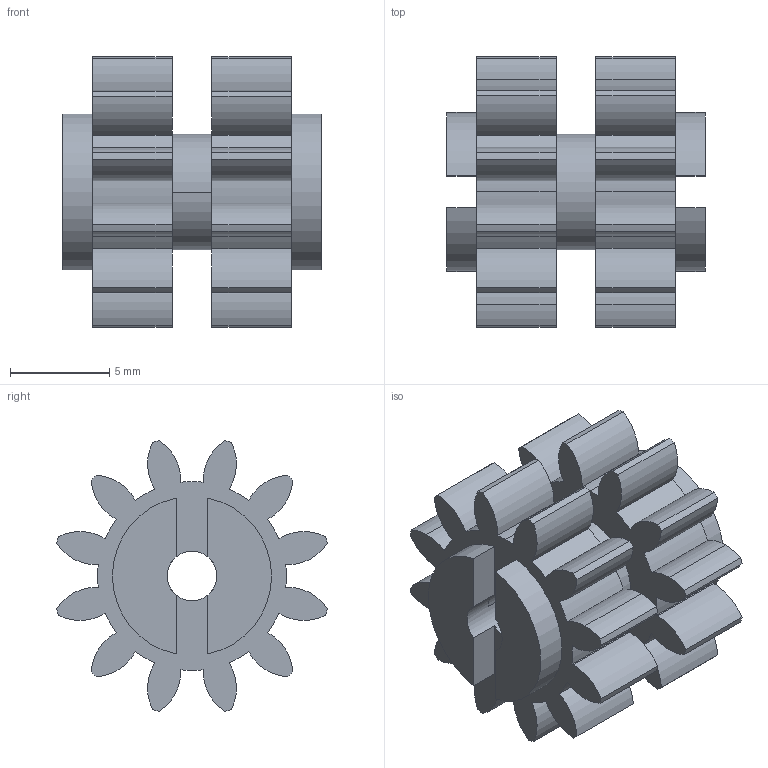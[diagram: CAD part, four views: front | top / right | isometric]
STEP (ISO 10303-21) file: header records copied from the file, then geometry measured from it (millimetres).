
FILE_DESCRIPTION(('CATIA V5 STEP Exchange'),'2;1');
FILE_NAME('G:\够快云库\系统集成开发部\1.部门成员\孙国\工装\切割工装\STP\0331\LS-0331.stp','2021-03-31T07:27:04+00:00',('none'),('none'),'CATIA Version 5 Release 20 GA (IN-10)','CATIA V5 STEP AP214','none');
FILE_SCHEMA(('AUTOMOTIVE_DESIGN { 1 0 10303 214 1 1 1 1 }'));
Length unit declared in the file: millimetre
Products named in the file (1): L2.0N
Bounding box: 13 x 13.61 x 13.61 mm (x, y, z)
Volume: 935.1 mm3; surface area: 1236.9 mm2
Topology: 1 solids, 1 shells, 148 faces, 422 edges, 280 vertices
Faces by surface type: cylinder 130, plane 18
Entity records: 4360 total; most frequent: ORIENTED_EDGE 844, CARTESIAN_POINT 775, DIRECTION 566, EDGE_CURVE 422, AXIS2_PLACEMENT_3D 339, VERTEX_POINT 280, CIRCLE 266, VECTOR 156
